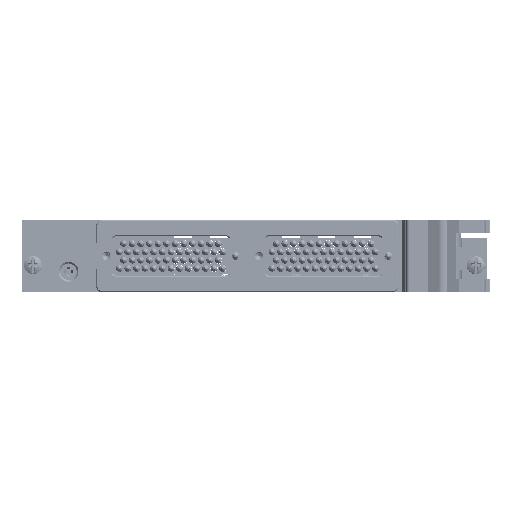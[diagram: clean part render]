
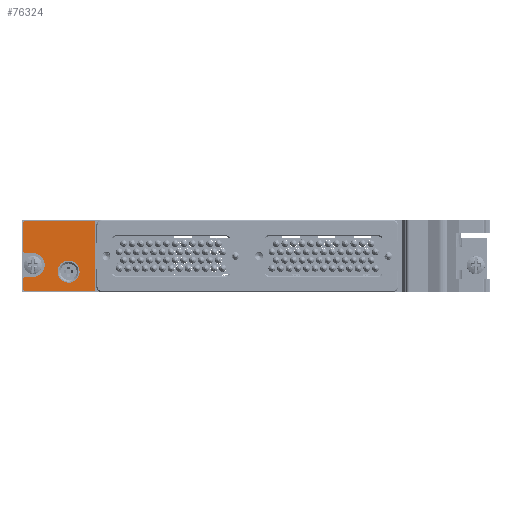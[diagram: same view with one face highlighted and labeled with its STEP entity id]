
A CAD part, left-side view. The second image highlights one B-rep face of the part: STEP entity #76324.
In plain terms, the highlighted planar face has unit normal (-1, 0, 0) as drawn and (0, 0, 1) by its records, which use the part's own axes.
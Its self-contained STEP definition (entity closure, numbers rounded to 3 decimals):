
#7319 = CIRCLE ( 'NONE', #204287, 0.3 ) ;
#12602 = CIRCLE ( 'NONE', #280438, 0.3 ) ;
#13940 = VERTEX_POINT ( 'NONE', #475320 ) ;
#14945 = VERTEX_POINT ( 'NONE', #48744 ) ;
#16038 = EDGE_CURVE ( 'NONE', #30182, #150066, #59783, .T. ) ;
#19408 = DIRECTION ( 'NONE',  ( 1., 0., 0. ) ) ;
#21835 = VECTOR ( 'NONE', #182597, 1000. ) ;
#23997 = VERTEX_POINT ( 'NONE', #377751 ) ;
#24202 = CARTESIAN_POINT ( 'NONE',  ( 106.375, -74.644, 0.2 ) ) ;
#30182 = VERTEX_POINT ( 'NONE', #71029 ) ;
#38103 = DIRECTION ( 'NONE',  ( 0., 1., 0. ) ) ;
#39113 = DIRECTION ( 'NONE',  ( 1., 0., 0. ) ) ;
#40989 = DIRECTION ( 'NONE',  ( 1., 0., 0. ) ) ;
#45882 = CARTESIAN_POINT ( 'NONE',  ( 106.375, -93.944, 0.2 ) ) ;
#48744 = CARTESIAN_POINT ( 'NONE',  ( 87.575, -74.344, 0.2 ) ) ;
#49177 = EDGE_LOOP ( 'NONE', ( #93770, #49838 ) ) ;
#49838 = ORIENTED_EDGE ( 'NONE', *, *, #371663, .F. ) ;
#51215 = ORIENTED_EDGE ( 'NONE', *, *, #61338, .T. ) ;
#54682 = EDGE_CURVE ( 'NONE', #433720, #278787, #7319, .T. ) ;
#59423 = AXIS2_PLACEMENT_3D ( 'NONE', #413830, #330277, #258757 ) ;
#59783 = CIRCLE ( 'NONE', #59423, 3.05 ) ;
#61338 = EDGE_CURVE ( 'NONE', #14945, #72594, #311896, .T. ) ;
#66742 = FACE_BOUND ( 'NONE', #49177, .T. ) ;
#68774 = EDGE_CURVE ( 'NONE', #13940, #474686, #461974, .T. ) ;
#69139 = CIRCLE ( 'NONE', #179586, 0.3 ) ;
#71029 = CARTESIAN_POINT ( 'NONE',  ( 89.585, -86.844, 0.2 ) ) ;
#72594 = VERTEX_POINT ( 'NONE', #328306 ) ;
#74099 = CARTESIAN_POINT ( 'NONE',  ( 87.275, -74.644, 0.2 ) ) ;
#75217 = LINE ( 'NONE', #444879, #181674 ) ;
#76324 = ADVANCED_FACE ( 'Face4', ( #94056, #66742 ), #436449, .T. ) ;
#77126 = EDGE_CURVE ( 'NONE', #450859, #426089, #185013, .T. ) ;
#78990 = DIRECTION ( 'NONE',  ( 0., -1., 0. ) ) ;
#93770 = ORIENTED_EDGE ( 'NONE', *, *, #16038, .F. ) ;
#94056 = FACE_OUTER_BOUND ( 'NONE', #248913, .T. ) ;
#94645 = DIRECTION ( 'NONE',  ( 0., 0., 1. ) ) ;
#97751 = LINE ( 'NONE', #100184, #219881 ) ;
#100184 = CARTESIAN_POINT ( 'NONE',  ( 106.375, -74.344, 0.2 ) ) ;
#124222 = CIRCLE ( 'NONE', #281921, 3.05 ) ;
#124591 = CIRCLE ( 'NONE', #384286, 0.3 ) ;
#128086 = EDGE_CURVE ( 'NONE', #23997, #450859, #12602, .T. ) ;
#128798 = ORIENTED_EDGE ( 'NONE', *, *, #54682, .T. ) ;
#130928 = AXIS2_PLACEMENT_3D ( 'NONE', #210408, #94645, #247384 ) ;
#133386 = DIRECTION ( 'NONE',  ( 1., 0., 0. ) ) ;
#140782 = EDGE_CURVE ( 'NONE', #460565, #165398, #326557, .T. ) ;
#146227 = CARTESIAN_POINT ( 'NONE',  ( 87.575, -94.244, 0.2 ) ) ;
#147275 = VECTOR ( 'NONE', #314753, 1000. ) ;
#150066 = VERTEX_POINT ( 'NONE', #487012 ) ;
#155431 = ORIENTED_EDGE ( 'NONE', *, *, #460063, .T. ) ;
#159005 = DIRECTION ( 'NONE',  ( 0., 1., 0. ) ) ;
#164379 = CARTESIAN_POINT ( 'NONE',  ( 90.875, -74.344, 0.2 ) ) ;
#165398 = VERTEX_POINT ( 'NONE', #353669 ) ;
#175246 = CARTESIAN_POINT ( 'NONE',  ( 94.475, -76.944, 0.2 ) ) ;
#179586 = AXIS2_PLACEMENT_3D ( 'NONE', #24202, #362018, #352350 ) ;
#181013 = CARTESIAN_POINT ( 'NONE',  ( 97.775, -76.944, 0.2 ) ) ;
#181674 = VECTOR ( 'NONE', #38103, 1000. ) ;
#182597 = DIRECTION ( 'NONE',  ( 1., 0., 0. ) ) ;
#185013 = LINE ( 'NONE', #414108, #21835 ) ;
#191551 = VECTOR ( 'NONE', #398018, 1000. ) ;
#192332 = AXIS2_PLACEMENT_3D ( 'NONE', #284644, #469267, #289455 ) ;
#204287 = AXIS2_PLACEMENT_3D ( 'NONE', #270030, #457105, #306983 ) ;
#210408 = CARTESIAN_POINT ( 'NONE',  ( 87.575, -74.644, 0.2 ) ) ;
#212985 = ORIENTED_EDGE ( 'NONE', *, *, #314116, .T. ) ;
#217788 = ORIENTED_EDGE ( 'NONE', *, *, #426696, .T. ) ;
#219881 = VECTOR ( 'NONE', #222489, 1000. ) ;
#222489 = DIRECTION ( 'NONE',  ( -1., 0., 0. ) ) ;
#224019 = DIRECTION ( 'NONE',  ( 0., 0., 1. ) ) ;
#230393 = VERTEX_POINT ( 'NONE', #455335 ) ;
#243239 = EDGE_CURVE ( 'NONE', #396509, #460565, #301108, .T. ) ;
#244360 = DIRECTION ( 'NONE',  ( 0., 0., 1. ) ) ;
#247384 = DIRECTION ( 'NONE',  ( -1., 0., 0. ) ) ;
#248913 = EDGE_LOOP ( 'NONE', ( #295169, #253882, #128798, #155431, #51215, #357687, #470009, #423967, #217788, #360483, #268427, #212985, #310822, #471971 ) ) ;
#253882 = ORIENTED_EDGE ( 'NONE', *, *, #462927, .T. ) ;
#254876 = CARTESIAN_POINT ( 'NONE',  ( 91.175, -76.944, 0.2 ) ) ;
#258757 = DIRECTION ( 'NONE',  ( 1., 0., 0. ) ) ;
#268427 = ORIENTED_EDGE ( 'NONE', *, *, #378590, .T. ) ;
#270030 = CARTESIAN_POINT ( 'NONE',  ( 90.875, -74.644, 0.2 ) ) ;
#278787 = VERTEX_POINT ( 'NONE', #458200 ) ;
#279077 = CARTESIAN_POINT ( 'NONE',  ( 97.775, -74.644, 0.2 ) ) ;
#280438 = AXIS2_PLACEMENT_3D ( 'NONE', #303009, #224019, #39113 ) ;
#281921 = AXIS2_PLACEMENT_3D ( 'NONE', #419021, #303384, #386996 ) ;
#284644 = CARTESIAN_POINT ( 'NONE',  ( 94.475, -76.944, 0.2 ) ) ;
#289455 = DIRECTION ( 'NONE',  ( 1., 0., 0. ) ) ;
#295169 = ORIENTED_EDGE ( 'NONE', *, *, #397809, .T. ) ;
#297871 = CARTESIAN_POINT ( 'NONE',  ( 98.075, -74.344, 0.2 ) ) ;
#301108 = CIRCLE ( 'NONE', #387610, 0.3 ) ;
#302454 = DIRECTION ( 'NONE',  ( 0., 0., 1. ) ) ;
#303009 = CARTESIAN_POINT ( 'NONE',  ( 87.575, -93.944, 0.2 ) ) ;
#303384 = DIRECTION ( 'NONE',  ( 0., 0., 1. ) ) ;
#306983 = DIRECTION ( 'NONE',  ( 1., 0., 0. ) ) ;
#310822 = ORIENTED_EDGE ( 'NONE', *, *, #243239, .T. ) ;
#311896 = CIRCLE ( 'NONE', #130928, 0.3 ) ;
#314116 = EDGE_CURVE ( 'NONE', #230393, #396509, #97751, .T. ) ;
#314753 = DIRECTION ( 'NONE',  ( -1., 0., 0. ) ) ;
#326557 = LINE ( 'NONE', #181013, #191551 ) ;
#328306 = CARTESIAN_POINT ( 'NONE',  ( 87.275, -74.644, 0.2 ) ) ;
#330277 = DIRECTION ( 'NONE',  ( 0., 0., 1. ) ) ;
#335753 = AXIS2_PLACEMENT_3D ( 'NONE', #175246, #244360, #133386 ) ;
#352350 = DIRECTION ( 'NONE',  ( 1., 0., 0. ) ) ;
#353669 = CARTESIAN_POINT ( 'NONE',  ( 97.775, -76.944, 0.2 ) ) ;
#357687 = ORIENTED_EDGE ( 'NONE', *, *, #358864, .T. ) ;
#358864 = EDGE_CURVE ( 'NONE', #72594, #23997, #416520, .T. ) ;
#359625 = CARTESIAN_POINT ( 'NONE',  ( 98.075, -74.644, 0.2 ) ) ;
#360483 = ORIENTED_EDGE ( 'NONE', *, *, #68774, .T. ) ;
#362018 = DIRECTION ( 'NONE',  ( 0., 0., 1. ) ) ;
#362823 = VECTOR ( 'NONE', #78990, 1000. ) ;
#364448 = DIRECTION ( 'NONE',  ( 0., 0., 1. ) ) ;
#371039 = CARTESIAN_POINT ( 'NONE',  ( 106.375, -94.244, 0.2 ) ) ;
#371663 = EDGE_CURVE ( 'NONE', #150066, #30182, #124222, .T. ) ;
#373619 = CIRCLE ( 'NONE', #192332, 3.3 ) ;
#377751 = CARTESIAN_POINT ( 'NONE',  ( 87.275, -93.944, 0.2 ) ) ;
#378590 = EDGE_CURVE ( 'NONE', #474686, #230393, #69139, .T. ) ;
#384286 = AXIS2_PLACEMENT_3D ( 'NONE', #45882, #302454, #40989 ) ;
#386996 = DIRECTION ( 'NONE',  ( 1., 0., 0. ) ) ;
#387610 = AXIS2_PLACEMENT_3D ( 'NONE', #359625, #364448, #19408 ) ;
#388704 = LINE ( 'NONE', #164379, #147275 ) ;
#396509 = VERTEX_POINT ( 'NONE', #297871 ) ;
#397809 = EDGE_CURVE ( 'NONE', #165398, #397906, #373619, .T. ) ;
#397906 = VERTEX_POINT ( 'NONE', #254876 ) ;
#398018 = DIRECTION ( 'NONE',  ( 0., -1., 0. ) ) ;
#402021 = VECTOR ( 'NONE', #159005, 1000. ) ;
#413830 = CARTESIAN_POINT ( 'NONE',  ( 92.635, -86.844, 0.2 ) ) ;
#414108 = CARTESIAN_POINT ( 'NONE',  ( 87.575, -94.244, 0.2 ) ) ;
#414513 = CARTESIAN_POINT ( 'NONE',  ( 106.675, -74.644, 0.2 ) ) ;
#416520 = LINE ( 'NONE', #74099, #362823 ) ;
#419021 = CARTESIAN_POINT ( 'NONE',  ( 92.635, -86.844, 0.2 ) ) ;
#423967 = ORIENTED_EDGE ( 'NONE', *, *, #77126, .T. ) ;
#426089 = VERTEX_POINT ( 'NONE', #371039 ) ;
#426696 = EDGE_CURVE ( 'NONE', #426089, #13940, #124591, .T. ) ;
#433720 = VERTEX_POINT ( 'NONE', #479241 ) ;
#436449 = PLANE ( 'NONE',  #335753 ) ;
#444879 = CARTESIAN_POINT ( 'NONE',  ( 91.175, -76.944, 0.2 ) ) ;
#450859 = VERTEX_POINT ( 'NONE', #146227 ) ;
#455335 = CARTESIAN_POINT ( 'NONE',  ( 106.375, -74.344, 0.2 ) ) ;
#457105 = DIRECTION ( 'NONE',  ( 0., 0., 1. ) ) ;
#458200 = CARTESIAN_POINT ( 'NONE',  ( 90.875, -74.344, 0.2 ) ) ;
#459519 = CARTESIAN_POINT ( 'NONE',  ( 106.675, -93.944, 0.2 ) ) ;
#460063 = EDGE_CURVE ( 'NONE', #278787, #14945, #388704, .T. ) ;
#460565 = VERTEX_POINT ( 'NONE', #279077 ) ;
#461974 = LINE ( 'NONE', #459519, #402021 ) ;
#462927 = EDGE_CURVE ( 'NONE', #397906, #433720, #75217, .T. ) ;
#469267 = DIRECTION ( 'NONE',  ( 0., 0., -1. ) ) ;
#470009 = ORIENTED_EDGE ( 'NONE', *, *, #128086, .T. ) ;
#471971 = ORIENTED_EDGE ( 'NONE', *, *, #140782, .T. ) ;
#474686 = VERTEX_POINT ( 'NONE', #414513 ) ;
#475320 = CARTESIAN_POINT ( 'NONE',  ( 106.675, -93.944, 0.2 ) ) ;
#479241 = CARTESIAN_POINT ( 'NONE',  ( 91.175, -74.644, 0.2 ) ) ;
#487012 = CARTESIAN_POINT ( 'NONE',  ( 95.685, -86.844, 0.2 ) ) ;
